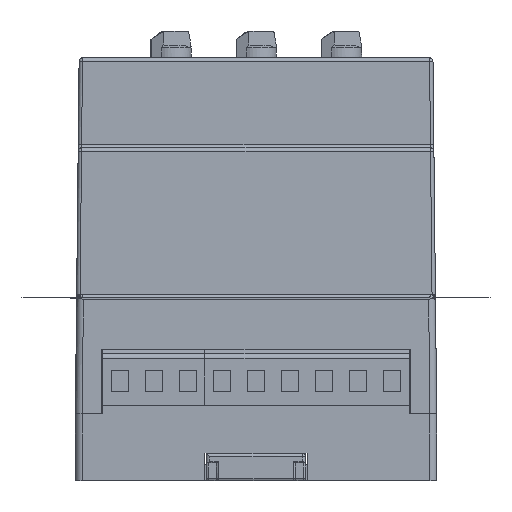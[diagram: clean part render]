
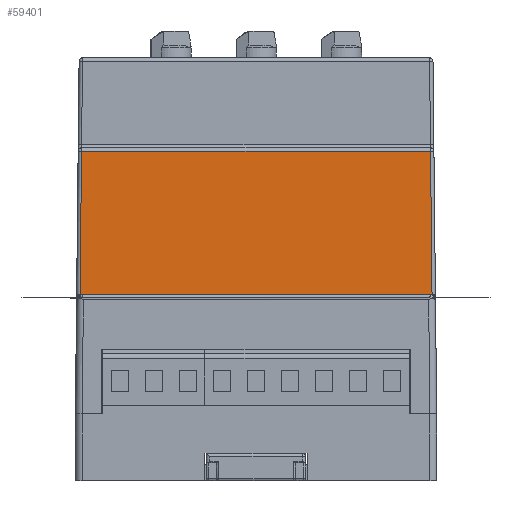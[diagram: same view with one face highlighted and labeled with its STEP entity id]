
A CAD part, front view. The second image highlights one B-rep face of the part: STEP entity #59401.
In plain terms, the highlighted planar face has unit normal (0, -1, 0.007).
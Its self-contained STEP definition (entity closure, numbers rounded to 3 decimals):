
#59401=ADVANCED_FACE('',(#126094),#126096,.T.);
#126094=FACE_BOUND('',#126095,.T.);
#126095=EDGE_LOOP('',(#180393,#180394,#180395,#180396));
#126096=PLANE('',#126097);
#126097=AXIS2_PLACEMENT_3D('',#126098,#126099,#126100);
#126098=CARTESIAN_POINT('',(26.5,-30.7,0.));
#126099=DIRECTION('',(0.,-1.,0.007));
#126100=DIRECTION('',(0.,0.007,1.));
#180393=ORIENTED_EDGE('',*,*,#210444,.T.);
#180394=ORIENTED_EDGE('',*,*,#210882,.T.);
#180395=ORIENTED_EDGE('',*,*,#210476,.T.);
#180396=ORIENTED_EDGE('',*,*,#210883,.T.);
#210444=EDGE_CURVE('',#247787,#247785,#247788,.T.);
#210476=EDGE_CURVE('',#247835,#247833,#247836,.T.);
#210882=EDGE_CURVE('',#247785,#247835,#248586,.T.);
#210883=EDGE_CURVE('',#247833,#247787,#248587,.T.);
#247785=VERTEX_POINT('',#336548);
#247787=VERTEX_POINT('',#336553);
#247788=LINE('',#336554,#336555);
#247833=VERTEX_POINT('',#336720);
#247835=VERTEX_POINT('',#336725);
#247836=LINE('',#336726,#336727);
#248586=LINE('',#338951,#338952);
#248587=LINE('',#338954,#338955);
#336548=CARTESIAN_POINT('',(-25.817,-30.578,17.5));
#336553=CARTESIAN_POINT('',(-25.597,-30.431,38.503));
#336554=CARTESIAN_POINT('',(-25.597,-30.431,38.503));
#336555=VECTOR('',#336556,1.);
#336556=DIRECTION('',(-0.01,-0.007,-1.));
#336720=CARTESIAN_POINT('',(25.597,-30.431,38.503));
#336725=CARTESIAN_POINT('',(25.817,-30.578,17.5));
#336726=CARTESIAN_POINT('',(25.817,-30.578,17.5));
#336727=VECTOR('',#336728,1.);
#336728=DIRECTION('',(-0.01,0.007,1.));
#338951=CARTESIAN_POINT('',(-25.817,-30.578,17.5));
#338952=VECTOR('',#338953,1.);
#338953=DIRECTION('',(1.,0.,0.));
#338954=CARTESIAN_POINT('',(25.597,-30.431,38.503));
#338955=VECTOR('',#338956,1.);
#338956=DIRECTION('',(-1.,0.,0.));
